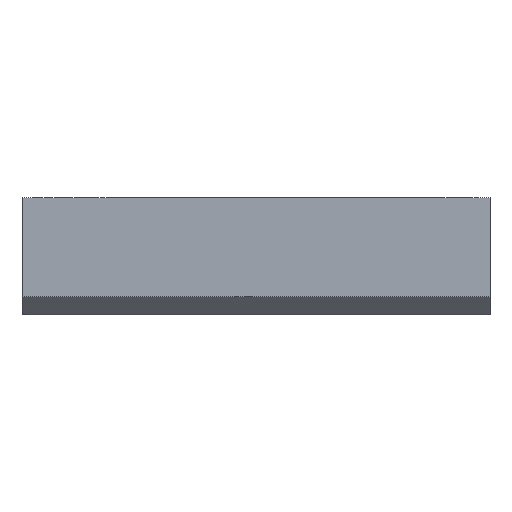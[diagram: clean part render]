
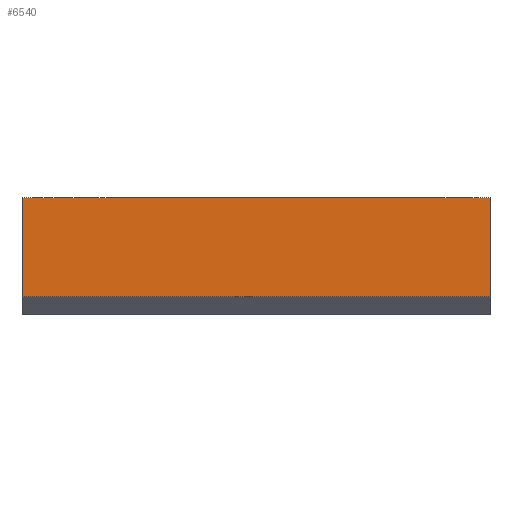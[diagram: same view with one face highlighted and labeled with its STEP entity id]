
A CAD part, front view. The second image highlights one B-rep face of the part: STEP entity #6540.
In plain terms, the highlighted planar face has unit normal (0, -1, 0).
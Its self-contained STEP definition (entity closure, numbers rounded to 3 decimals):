
#95 = DIRECTION ( 'NONE',  ( 0., 0., -1. ) ) ;
#290 = VERTEX_POINT ( 'NONE', #5268 ) ;
#340 = EDGE_CURVE ( 'NONE', #5781, #290, #2297, .T. ) ;
#407 = ORIENTED_EDGE ( 'NONE', *, *, #340, .T. ) ;
#408 = LINE ( 'NONE', #7499, #1849 ) ;
#1192 = VERTEX_POINT ( 'NONE', #7590 ) ;
#1196 = CARTESIAN_POINT ( 'NONE',  ( 40., 0., 3. ) ) ;
#1271 = FACE_OUTER_BOUND ( 'NONE', #7406, .T. ) ;
#1357 = ORIENTED_EDGE ( 'NONE', *, *, #7525, .T. ) ;
#1849 = VECTOR ( 'NONE', #5171, 1000. ) ;
#1922 = CARTESIAN_POINT ( 'NONE',  ( 0., 0., 20. ) ) ;
#2297 = LINE ( 'NONE', #7303, #2952 ) ;
#2952 = VECTOR ( 'NONE', #7149, 1000. ) ;
#3743 = DIRECTION ( 'NONE',  ( 0., -1., 0. ) ) ;
#4304 = PLANE ( 'NONE',  #6419 ) ;
#4785 = DIRECTION ( 'NONE',  ( 1., 0., 0. ) ) ;
#4928 = ORIENTED_EDGE ( 'NONE', *, *, #6784, .F. ) ;
#4967 = CARTESIAN_POINT ( 'NONE',  ( 80., 0., 3. ) ) ;
#4980 = ORIENTED_EDGE ( 'NONE', *, *, #5398, .F. ) ;
#5117 = CARTESIAN_POINT ( 'NONE',  ( 40., 0., 20. ) ) ;
#5171 = DIRECTION ( 'NONE',  ( 0., 0., 1. ) ) ;
#5201 = VERTEX_POINT ( 'NONE', #1922 ) ;
#5268 = CARTESIAN_POINT ( 'NONE',  ( 80., 0., 20. ) ) ;
#5306 = VECTOR ( 'NONE', #4785, 1000. ) ;
#5398 = EDGE_CURVE ( 'NONE', #5201, #290, #7095, .T. ) ;
#5691 = LINE ( 'NONE', #1196, #5306 ) ;
#5781 = VERTEX_POINT ( 'NONE', #4967 ) ;
#6419 = AXIS2_PLACEMENT_3D ( 'NONE', #7278, #3743, #95 ) ;
#6540 = ADVANCED_FACE ( 'NONE', ( #1271 ), #4304, .T. ) ;
#6563 = VECTOR ( 'NONE', #7466, 1000. ) ;
#6784 = EDGE_CURVE ( 'NONE', #1192, #5201, #408, .T. ) ;
#7095 = LINE ( 'NONE', #5117, #6563 ) ;
#7149 = DIRECTION ( 'NONE',  ( 0., 0., 1. ) ) ;
#7278 = CARTESIAN_POINT ( 'NONE',  ( 0., 0., 0. ) ) ;
#7303 = CARTESIAN_POINT ( 'NONE',  ( 80., 0., 11.5 ) ) ;
#7406 = EDGE_LOOP ( 'NONE', ( #407, #4980, #4928, #1357 ) ) ;
#7466 = DIRECTION ( 'NONE',  ( 1., 0., 0. ) ) ;
#7499 = CARTESIAN_POINT ( 'NONE',  ( 0., 0., 11.5 ) ) ;
#7525 = EDGE_CURVE ( 'NONE', #1192, #5781, #5691, .T. ) ;
#7590 = CARTESIAN_POINT ( 'NONE',  ( 0., 0., 3. ) ) ;
